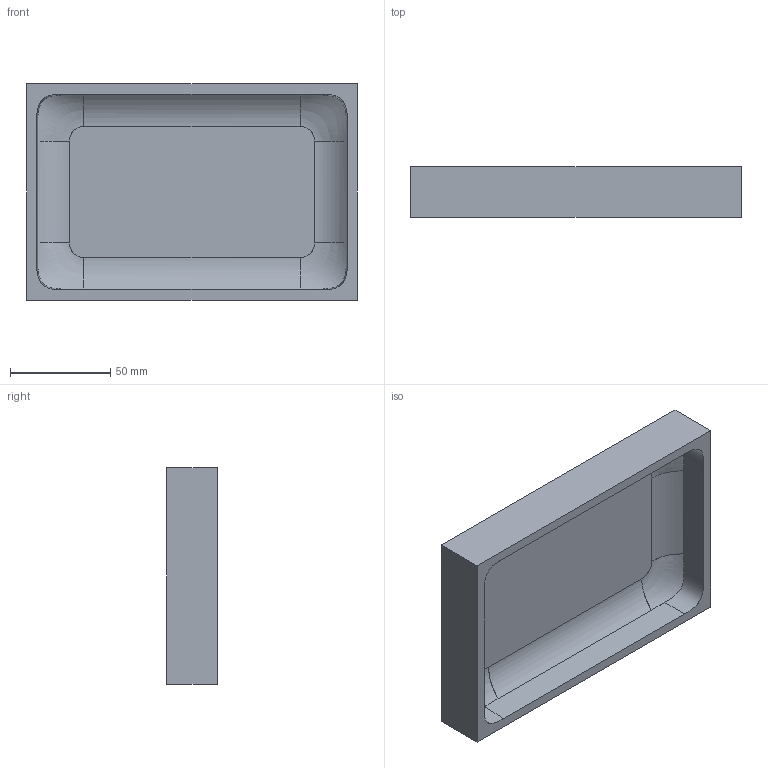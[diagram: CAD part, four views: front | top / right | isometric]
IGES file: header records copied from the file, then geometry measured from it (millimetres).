
Start section: SolidWorks IGES file using analytic representation for surfaces
Global section: file name: C:\Users\chad.chaiyont\My Project\MicroCase 3.0\MicroCase PID\M40-TOP-REV-A-PID 12-13-2022.IGS; native system: SolidWorks 2021; preprocessor: SolidWorks 2021; author: Chad.Chaiyont; date: 221213.140753; units: millimetre
Bounding box: 164.91 x 25.25 x 107.76 mm (x, y, z)
Surface area: 56423.1 mm2 (no closed solid volume)
Topology: 0 solids, 0 shells, 23 faces, 544 edges, 544 vertices
Faces by surface type: bspline 23
